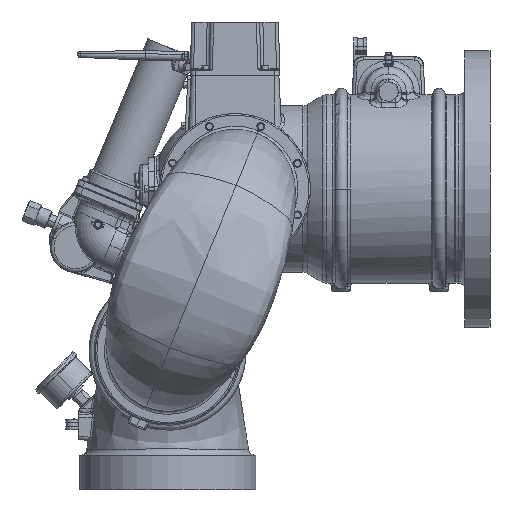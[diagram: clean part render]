
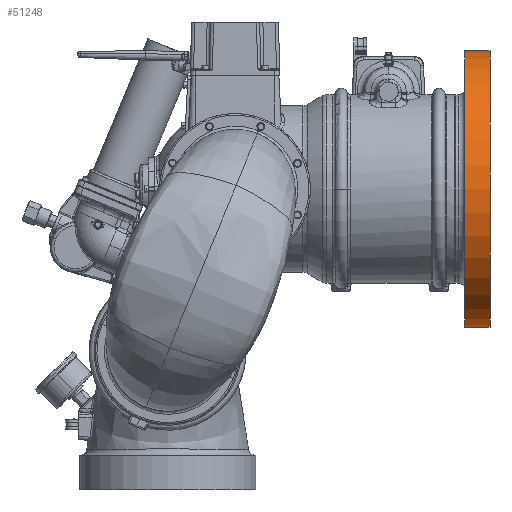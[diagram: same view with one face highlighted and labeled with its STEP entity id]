
A CAD part, left-side view. The second image highlights one B-rep face of the part: STEP entity #51248.
In plain terms, the highlighted cylindrical face has radius 139.7 mm (diameter 279.4 mm), a partial arc.
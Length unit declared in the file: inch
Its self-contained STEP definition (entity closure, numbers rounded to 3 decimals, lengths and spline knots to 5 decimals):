
#149 = DIRECTION ( 'NONE',  ( 0., -1., 0. ) ) ;
#12750 = CIRCLE ( 'NONE', #39364, 5.5 ) ;
#14425 = VERTEX_POINT ( 'NONE', #90427 ) ;
#17219 = ORIENTED_EDGE ( 'NONE', *, *, #47934, .F. ) ;
#19166 = VECTOR ( 'NONE', #160726, 39.37008 ) ;
#21998 = CARTESIAN_POINT ( 'NONE',  ( 0., 0.09188, 5.5 ) ) ;
#24077 = EDGE_LOOP ( 'NONE', ( #42424, #57838, #163404, #17219 ) ) ;
#26891 = CARTESIAN_POINT ( 'NONE',  ( 0., 0.09188, 0. ) ) ;
#29890 = VERTEX_POINT ( 'NONE', #158200 ) ;
#39364 = AXIS2_PLACEMENT_3D ( 'NONE', #148598, #71482, #161505 ) ;
#39634 = LINE ( 'NONE', #113388, #138338 ) ;
#39901 = DIRECTION ( 'NONE',  ( 0., 0., -1. ) ) ;
#42424 = ORIENTED_EDGE ( 'NONE', *, *, #106125, .F. ) ;
#47778 = EDGE_CURVE ( 'NONE', #29890, #14425, #12750, .T. ) ;
#47934 = EDGE_CURVE ( 'NONE', #115321, #67727, #103543, .T. ) ;
#51248 = ADVANCED_FACE ( 'NONE', ( #158397 ), #89920, .T. ) ;
#57838 = ORIENTED_EDGE ( 'NONE', *, *, #47778, .T. ) ;
#59065 = AXIS2_PLACEMENT_3D ( 'NONE', #71439, #161469, #96780 ) ;
#67727 = VERTEX_POINT ( 'NONE', #134033 ) ;
#70712 = CARTESIAN_POINT ( 'NONE',  ( 0., 0., 5.5 ) ) ;
#71439 = CARTESIAN_POINT ( 'NONE',  ( 0., 0., 0. ) ) ;
#71482 = DIRECTION ( 'NONE',  ( 0., -1., 0. ) ) ;
#89920 = CYLINDRICAL_SURFACE ( 'NONE', #59065, 5.5 ) ;
#90427 = CARTESIAN_POINT ( 'NONE',  ( 0., 1.09188, -5.5 ) ) ;
#96780 = DIRECTION ( 'NONE',  ( 0., 0., -1. ) ) ;
#103543 = CIRCLE ( 'NONE', #142989, 5.5 ) ;
#104814 = EDGE_CURVE ( 'NONE', #14425, #67727, #39634, .T. ) ;
#106125 = EDGE_CURVE ( 'NONE', #29890, #115321, #118009, .T. ) ;
#113388 = CARTESIAN_POINT ( 'NONE',  ( 0., 0., -5.5 ) ) ;
#115321 = VERTEX_POINT ( 'NONE', #21998 ) ;
#117068 = DIRECTION ( 'NONE',  ( 0., -1., 0. ) ) ;
#118009 = LINE ( 'NONE', #70712, #19166 ) ;
#134033 = CARTESIAN_POINT ( 'NONE',  ( 0., 0.09188, -5.5 ) ) ;
#138338 = VECTOR ( 'NONE', #149, 39.37008 ) ;
#142989 = AXIS2_PLACEMENT_3D ( 'NONE', #26891, #117068, #39901 ) ;
#148598 = CARTESIAN_POINT ( 'NONE',  ( 0., 1.09188, 0. ) ) ;
#158200 = CARTESIAN_POINT ( 'NONE',  ( 0., 1.09188, 5.5 ) ) ;
#158397 = FACE_OUTER_BOUND ( 'NONE', #24077, .T. ) ;
#160726 = DIRECTION ( 'NONE',  ( 0., -1., 0. ) ) ;
#161469 = DIRECTION ( 'NONE',  ( 0., -1., 0. ) ) ;
#161505 = DIRECTION ( 'NONE',  ( 0., 0., -1. ) ) ;
#163404 = ORIENTED_EDGE ( 'NONE', *, *, #104814, .T. ) ;
